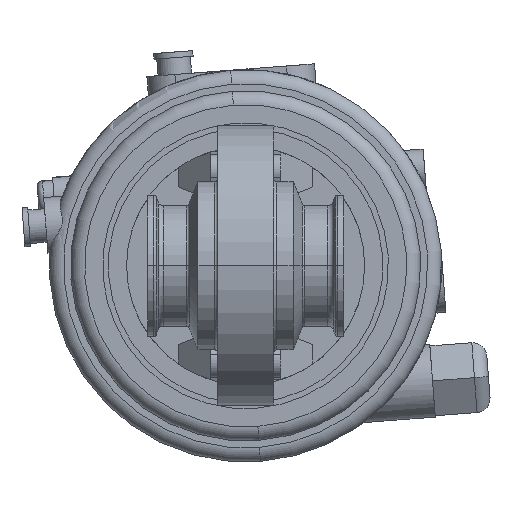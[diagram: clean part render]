
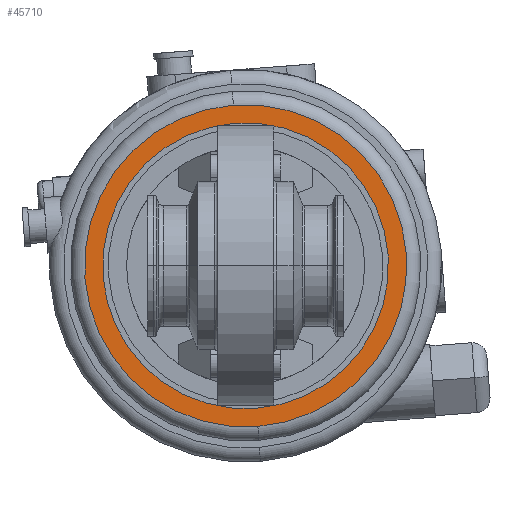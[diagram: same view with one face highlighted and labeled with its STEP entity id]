
A CAD part, front view. The second image highlights one B-rep face of the part: STEP entity #45710.
In plain terms, the highlighted planar face has unit normal (0, -1, 0).
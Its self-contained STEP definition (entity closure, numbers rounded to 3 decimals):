
#44290=CARTESIAN_POINT('',(-51.,6.224,0.));
#44300=VERTEX_POINT('',#44290);
#44460=CARTESIAN_POINT('',(51.,6.224,0.));
#44470=VERTEX_POINT('',#44460);
#44500=CARTESIAN_POINT('',(0.,6.224,0.));
#44510=DIRECTION('',(0.,1.,0.));
#44520=DIRECTION('',(-1.,0.,0.));
#44530=AXIS2_PLACEMENT_3D('',#44500,#44510,#44520);
#44540=CIRCLE('',#44530,51.);
#44550=EDGE_CURVE('',#44470,#44300,#44540,.T.);
#44720=CARTESIAN_POINT('',(57.5,6.224,0.));
#44730=VERTEX_POINT('',#44720);
#44940=CARTESIAN_POINT('',(-57.5,6.224,0.));
#44950=VERTEX_POINT('',#44940);
#44980=CARTESIAN_POINT('',(0.,6.224,0.));
#44990=DIRECTION('',(0.,1.,0.));
#45000=DIRECTION('',(0.,0.,1.));
#45010=AXIS2_PLACEMENT_3D('',#44980,#44990,#45000);
#45020=CIRCLE('',#45010,57.5);
#45030=EDGE_CURVE('',#44730,#44950,#45020,.T.);
#45560=CARTESIAN_POINT('',(0.,6.224,0.));
#45570=DIRECTION('',(0.,1.,0.));
#45580=DIRECTION('',(0.,0.,1.));
#45590=AXIS2_PLACEMENT_3D('',#45560,#45570,#45580);
#45600=PLANE('',#45590);
#45610=EDGE_CURVE('',#44300,#44470,#44540,.T.);
#45620=ORIENTED_EDGE('',*,*,#45610,.T.);
#45630=ORIENTED_EDGE('',*,*,#44550,.T.);
#45640=EDGE_LOOP('',(#45630,#45620));
#45650=FACE_BOUND('',#45640,.T.);
#45660=EDGE_CURVE('',#44950,#44730,#45020,.T.);
#45670=ORIENTED_EDGE('',*,*,#45660,.F.);
#45680=ORIENTED_EDGE('',*,*,#45030,.F.);
#45690=EDGE_LOOP('',(#45680,#45670));
#45700=FACE_OUTER_BOUND('',#45690,.T.);
#45710=ADVANCED_FACE('',(#45650,#45700),#45600,.F.);
